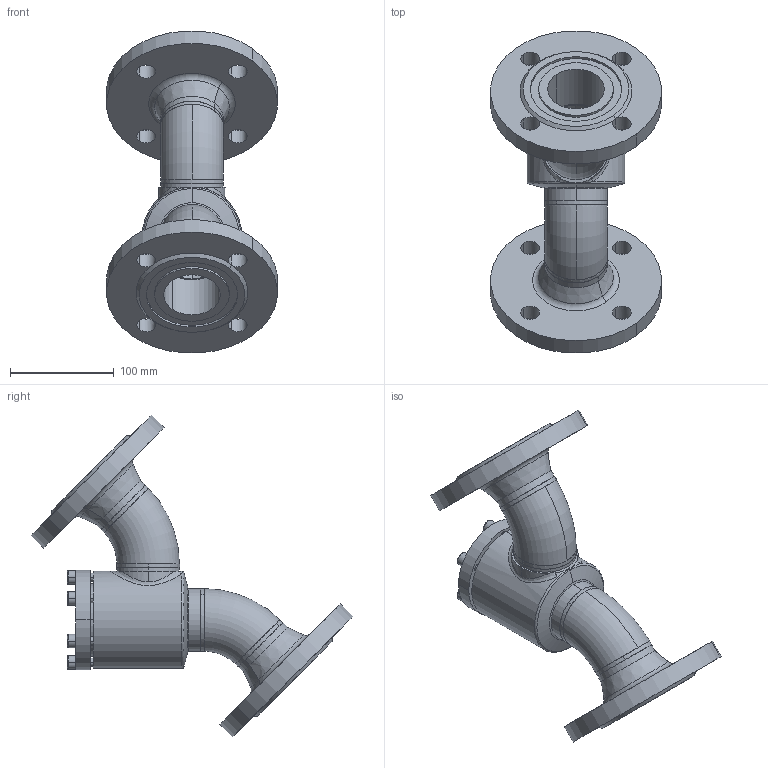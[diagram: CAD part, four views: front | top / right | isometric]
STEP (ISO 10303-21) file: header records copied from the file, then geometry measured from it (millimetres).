
FILE_DESCRIPTION (( 'STEP AP214' ), '1' );
FILE_NAME ('SS52320D15-DN050_DIN-FL-N_PS40.STEP', '2006-05-02T05:47:57', ( 'Herr Grams' ), ( 'AWP GmbH' ), 'SwSTEP 2.0', 'SolidWorks 2002296', '' );
FILE_SCHEMA (( 'AUTOMOTIVE_DESIGN' ));
Length unit declared in the file: millimetre
Products named in the file (13): SS52320D15-DN050_DIN-FL-N_PS40; SS52300E15_Deck+Schr-DN40-50_Standard; Deckel52300E15-DN40-50_Standard; Zylinderschraube-DIN912_M 8x 25; Gehäuse-kpl16320-DN050_DIN_PS40_Standard; bead16320-DN050-1_Standard; bead16320-DN050-2_Standard; Gehäuse-kpl16300-DN050_R1_Standard; Gehäuse16300-DN050_Standard; Rohrbogen 45°_R1-Fase_Rohrbogen-DN050-45°; bead16300-Geh-050-2_Standard; bead16300-Geh-050-1_Standard; Flansch-DIN2635-Nut_PS40_DIN-Flansch-DN050_PS40-Nut
Assembly tree (19 placements, depth 4):
  SS52320D15-DN050_DIN-FL-N_PS40
    SS52300E15_Deck+Schr-DN40-50_Standard
      Zylinderschraube-DIN912_M 8x 25  x6
      Deckel52300E15-DN40-50_Standard
    Gehäuse-kpl16320-DN050_DIN_PS40_Standard
      bead16320-DN050-1_Standard
      Gehäuse-kpl16300-DN050_R1_Standard
        bead16300-Geh-050-2_Standard
        Rohrbogen 45°_R1-Fase_Rohrbogen-DN050-45°  x2
        Gehäuse16300-DN050_Standard
        bead16300-Geh-050-1_Standard
      Flansch-DIN2635-Nut_PS40_DIN-Flansch-DN050_PS40-Nut  x2
      bead16320-DN050-2_Standard
Bounding box: 164.37 x 310.28 x 310.28 mm (x, y, z)
Volume: 1172850.5 mm3; surface area: 269577.2 mm2
Topology: 16 solids, 16 shells, 286 faces, 667 edges, 421 vertices
Faces by surface type: cylinder 95, plane 86, cone 60, torus 26, bspline 19
Entity records: 53791 total; most frequent: CARTESIAN_POINT 49560, DIRECTION 752, ORIENTED_EDGE 746, EDGE_CURVE 373, AXIS2_PLACEMENT_3D 319, VERTEX_POINT 235, EDGE_LOOP 188, CIRCLE 159
